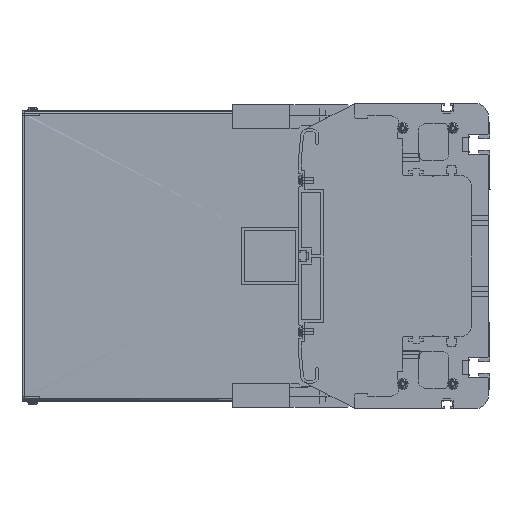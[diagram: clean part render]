
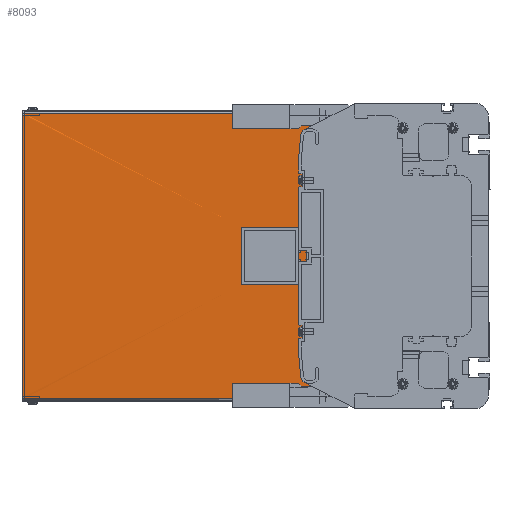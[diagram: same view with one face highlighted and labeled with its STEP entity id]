
A CAD part, left-side view. The second image highlights one B-rep face of the part: STEP entity #8093.
In plain terms, the highlighted planar face has unit normal (-1, 0, 0).
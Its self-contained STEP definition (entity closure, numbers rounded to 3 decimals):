
#214=DIRECTION('',(0.,1.,0.));
#215=VECTOR('',#214,1.5);
#216=CARTESIAN_POINT('',(-134.5,326.,98.5));
#217=LINE('',#216,#215);
#303=DIRECTION('',(0.,0.,1.));
#304=VECTOR('',#303,197.);
#305=CARTESIAN_POINT('',(-134.5,327.5,-98.5));
#306=LINE('',#305,#304);
#350=CARTESIAN_POINT('',(-134.5,326.,-98.5));
#351=CARTESIAN_POINT('',(-134.5,326.,-98.624));
#352=CARTESIAN_POINT('',(-134.521,326.,-98.867));
#353=CARTESIAN_POINT('',(-134.457,326.,-99.099));
#354=CARTESIAN_POINT('',(-134.457,326.,-99.212));
#356=CARTESIAN_POINT('',(-134.457,326.,99.212));
#357=CARTESIAN_POINT('',(-134.457,326.,99.099));
#358=CARTESIAN_POINT('',(-134.521,326.,98.867));
#359=CARTESIAN_POINT('',(-134.5,326.,98.624));
#360=CARTESIAN_POINT('',(-134.5,326.,98.5));
#362=CARTESIAN_POINT('',(-134.381,326.,99.941));
#363=CARTESIAN_POINT('',(-134.381,326.,99.745));
#364=CARTESIAN_POINT('',(-134.581,326.,99.506));
#365=CARTESIAN_POINT('',(-134.457,326.,99.278));
#366=CARTESIAN_POINT('',(-134.457,326.,99.212));
#368=DIRECTION('',(0.,0.,1.));
#369=VECTOR('',#368,200.);
#370=CARTESIAN_POINT('',(-134.5,95.,-100.));
#371=LINE('',#370,#369);
#372=CARTESIAN_POINT('',(-134.457,326.,-99.212));
#373=CARTESIAN_POINT('',(-134.457,326.,-99.278));
#374=CARTESIAN_POINT('',(-134.581,326.,-99.506));
#375=CARTESIAN_POINT('',(-134.381,326.,-99.745));
#376=CARTESIAN_POINT('',(-134.381,326.,-99.941));
#378=DIRECTION('',(0.,-1.,0.));
#379=VECTOR('',#378,40.);
#380=CARTESIAN_POINT('',(-134.5,174.,20.));
#381=LINE('',#380,#379);
#382=DIRECTION('',(0.,0.,1.));
#383=VECTOR('',#382,40.);
#384=CARTESIAN_POINT('',(-134.5,174.,-20.));
#385=LINE('',#384,#383);
#386=DIRECTION('',(0.,1.,0.));
#387=VECTOR('',#386,40.);
#388=CARTESIAN_POINT('',(-134.5,134.,-20.));
#389=LINE('',#388,#387);
#390=DIRECTION('',(0.,0.,-1.));
#391=VECTOR('',#390,40.);
#392=CARTESIAN_POINT('',(-134.5,134.,20.));
#393=LINE('',#392,#391);
#414=DIRECTION('',(0.,-1.,0.));
#415=VECTOR('',#414,1.5);
#416=CARTESIAN_POINT('',(-134.5,327.5,-98.5));
#417=LINE('',#416,#415);
#422=DIRECTION('',(0.001,1.,0.));
#423=VECTOR('',#422,231.);
#424=CARTESIAN_POINT('',(-134.5,95.,100.));
#425=LINE('',#424,#423);
#3527=DIRECTION('',(-0.001,-1.,0.));
#3528=VECTOR('',#3527,231.);
#3529=CARTESIAN_POINT('',(-134.381,326.,-99.941));
#3530=LINE('',#3529,#3528);
#5926=CARTESIAN_POINT('',(-134.5,95.,100.));
#5927=VERTEX_POINT('',#5926);
#5928=CARTESIAN_POINT('',(-134.5,95.,-100.));
#5929=VERTEX_POINT('',#5928);
#7250=CARTESIAN_POINT('',(-134.5,327.5,98.5));
#7252=VERTEX_POINT('',#7250);
#7254=CARTESIAN_POINT('',(-134.5,327.5,-98.5));
#7255=VERTEX_POINT('',#7254);
#7418=CARTESIAN_POINT('',(-134.183,326.,99.842));
#7419=VERTEX_POINT('',#7418);
#7420=VERTEX_POINT('',#366);
#7421=VERTEX_POINT('',#360);
#7422=VERTEX_POINT('',#350);
#7423=VERTEX_POINT('',#354);
#7424=VERTEX_POINT('',#376);
#7617=CARTESIAN_POINT('',(-134.5,174.,20.));
#7618=CARTESIAN_POINT('',(-134.5,134.,20.));
#7619=VERTEX_POINT('',#7617);
#7620=VERTEX_POINT('',#7618);
#7621=CARTESIAN_POINT('',(-134.5,174.,-20.));
#7622=VERTEX_POINT('',#7621);
#7623=CARTESIAN_POINT('',(-134.5,134.,-20.));
#7624=VERTEX_POINT('',#7623);
#8060=CARTESIAN_POINT('',(-134.5,210.5,0.));
#8061=DIRECTION('',(1.,0.,0.));
#8062=DIRECTION('',(0.,0.,1.));
#8063=AXIS2_PLACEMENT_3D('',#8060,#8061,#8062);
#8064=PLANE('',#8063);
#8066=ORIENTED_EDGE('',*,*,#8065,.F.);
#8068=ORIENTED_EDGE('',*,*,#8067,.F.);
#8069=ORIENTED_EDGE('',*,*,#7983,.T.);
#8070=ORIENTED_EDGE('',*,*,#7915,.F.);
#8071=ORIENTED_EDGE('',*,*,#7913,.F.);
#8072=ORIENTED_EDGE('',*,*,#7911,.F.);
#8074=ORIENTED_EDGE('',*,*,#8073,.F.);
#8076=ORIENTED_EDGE('',*,*,#8075,.F.);
#8078=ORIENTED_EDGE('',*,*,#8077,.F.);
#8080=ORIENTED_EDGE('',*,*,#8079,.F.);
#8081=EDGE_LOOP('',(#8066,#8068,#8069,#8070,#8071,#8072,#8074,#8076,#8078,
#8080));
#8082=FACE_OUTER_BOUND('',#8081,.F.);
#8084=ORIENTED_EDGE('',*,*,#8083,.F.);
#8086=ORIENTED_EDGE('',*,*,#8085,.F.);
#8088=ORIENTED_EDGE('',*,*,#8087,.F.);
#8090=ORIENTED_EDGE('',*,*,#8089,.F.);
#8091=EDGE_LOOP('',(#8084,#8086,#8088,#8090));
#8092=FACE_BOUND('',#8091,.F.);
#8093=ADVANCED_FACE('',(#8082,#8092),#8064,.F.);
#355=B_SPLINE_CURVE_WITH_KNOTS('',3,(#350,#351,#352,#353,#354),.UNSPECIFIED.,
.F.,.F.,(4,1,4),(0.,0.5,1.),.UNSPECIFIED.);
#361=B_SPLINE_CURVE_WITH_KNOTS('',3,(#356,#357,#358,#359,#360),.UNSPECIFIED.,
.F.,.F.,(4,1,4),(0.,0.5,1.),.UNSPECIFIED.);
#367=B_SPLINE_CURVE_WITH_KNOTS('',3,(#362,#363,#364,#365,#366),.UNSPECIFIED.,
.F.,.F.,(4,1,4),(0.,0.5,1.),.UNSPECIFIED.);
#377=B_SPLINE_CURVE_WITH_KNOTS('',3,(#372,#373,#374,#375,#376),.UNSPECIFIED.,
.F.,.F.,(4,1,4),(0.,0.5,1.),.UNSPECIFIED.);
#7911=EDGE_CURVE('',#7419,#7420,#367,.T.);
#7913=EDGE_CURVE('',#7420,#7421,#361,.T.);
#7915=EDGE_CURVE('',#7421,#7252,#217,.T.);
#7983=EDGE_CURVE('',#7255,#7252,#306,.T.);
#8065=EDGE_CURVE('',#7422,#7423,#355,.T.);
#8067=EDGE_CURVE('',#7255,#7422,#417,.T.);
#8073=EDGE_CURVE('',#5927,#7419,#425,.T.);
#8075=EDGE_CURVE('',#5929,#5927,#371,.T.);
#8077=EDGE_CURVE('',#7424,#5929,#3530,.T.);
#8079=EDGE_CURVE('',#7423,#7424,#377,.T.);
#8083=EDGE_CURVE('',#7619,#7620,#381,.T.);
#8085=EDGE_CURVE('',#7622,#7619,#385,.T.);
#8087=EDGE_CURVE('',#7624,#7622,#389,.T.);
#8089=EDGE_CURVE('',#7620,#7624,#393,.T.);
